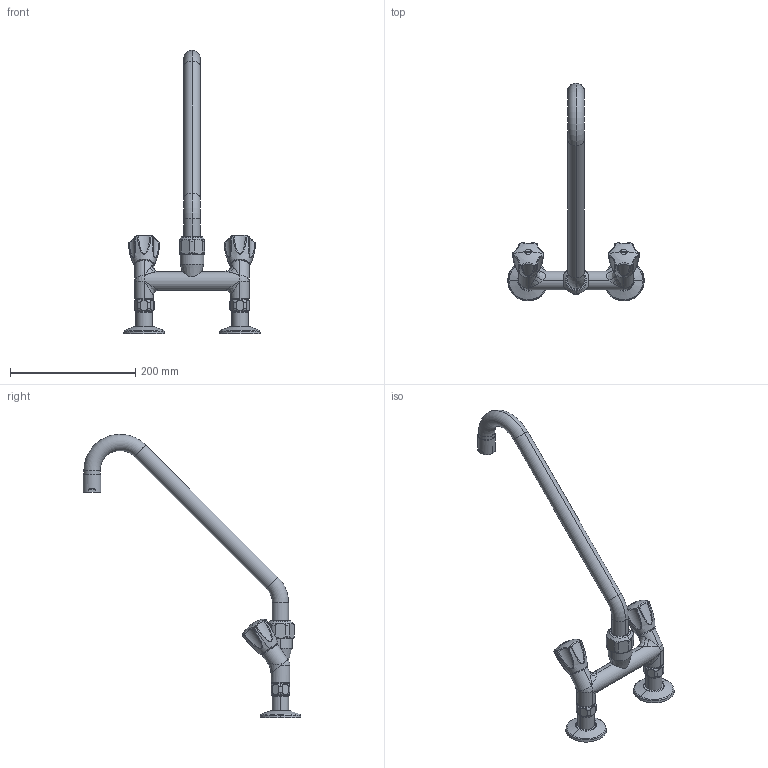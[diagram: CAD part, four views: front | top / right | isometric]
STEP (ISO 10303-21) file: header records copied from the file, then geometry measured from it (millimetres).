
FILE_DESCRIPTION((''),'2;1');
FILE_NAME('K_24_42_42_000C74','2012-01-04T',('HEF'),(''),'PRO/ENGINEER BY PARAMETRIC TECHNOLOGY CORPORATION, 2011080','PRO/ENGINEER BY PARAMETRIC TECHNOLOGY CORPORATION, 2011080','');
FILE_SCHEMA(('AUTOMOTIVE_DESIGN_CC2 { 1 2 10303 214 -1 1 5 2 }'));
Length unit declared in the file: millimetre
Products named in the file (1): K_24_42_42_000C74
Bounding box: 218 x 347.5 x 452.41 mm (x, y, z)
Volume: 739547.7 mm3; surface area: 114316.3 mm2
Topology: 3 solids, 3 shells, 362 faces, 843 edges, 508 vertices
Faces by surface type: plane 112, cylinder 74, torus 72, bspline 50, sphere 28, cone 22, extrusion 4
Entity records: 22431 total; most frequent: CARTESIAN_POINT 11629, ORIENTED_EDGE 1682, DIRECTION 1657, EDGE_CURVE 841, AXIS2_PLACEMENT_3D 684, VERTEX_POINT 508, FILL_AREA_STYLE_COLOUR 406, FILL_AREA_STYLE 406
